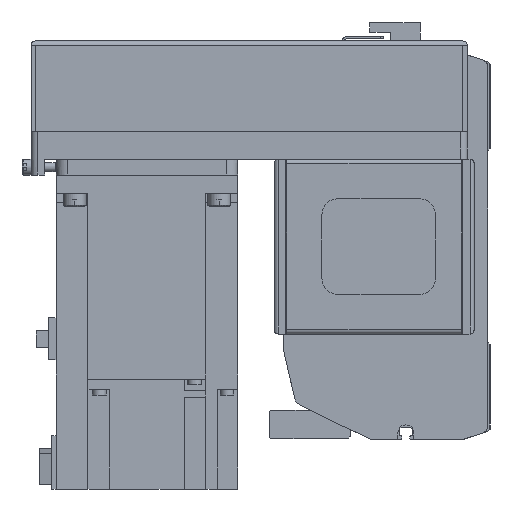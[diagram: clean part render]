
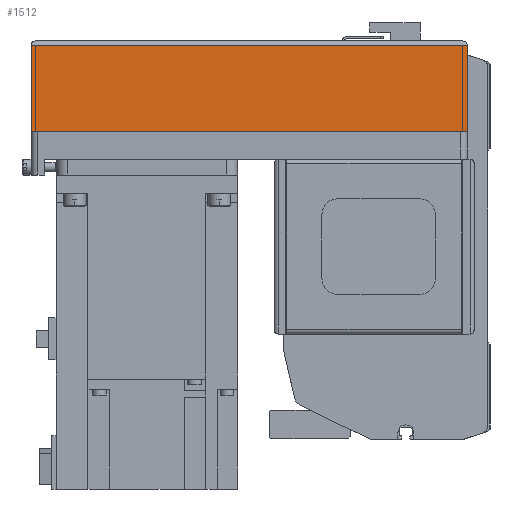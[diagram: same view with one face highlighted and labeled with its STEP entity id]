
A CAD part, left-side view. The second image highlights one B-rep face of the part: STEP entity #1512.
In plain terms, the highlighted planar face has unit normal (-1, 0, 0) as drawn and (0, 1, 0) by its records, which use the part's own axes.
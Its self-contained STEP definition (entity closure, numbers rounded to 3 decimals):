
#1512 = ADVANCED_FACE( '', ( #3743 ), #3744, .T. );
#3743 = FACE_OUTER_BOUND( '', #6865, .T. );
#3744 = PLANE( '', #6866 );
#6865 = EDGE_LOOP( '', ( #11060, #11061, #11062, #11063 ) );
#6866 = AXIS2_PLACEMENT_3D( '', #11064, #11065, #11066 );
#11060 = ORIENTED_EDGE( '', *, *, #18995, .F. );
#11061 = ORIENTED_EDGE( '', *, *, #18633, .F. );
#11062 = ORIENTED_EDGE( '', *, *, #18996, .T. );
#11063 = ORIENTED_EDGE( '', *, *, #18997, .T. );
#11064 = CARTESIAN_POINT( '', ( -192., 40., -50. ) );
#11065 = DIRECTION( '', ( 0., 1., 0. ) );
#11066 = DIRECTION( '', ( 0., 0., 1. ) );
#18633 = EDGE_CURVE( '', #22506, #22509, #22510, .T. );
#18995 = EDGE_CURVE( '', #22509, #23119, #23120, .T. );
#18996 = EDGE_CURVE( '', #22506, #23121, #23122, .T. );
#18997 = EDGE_CURVE( '', #23121, #23119, #23123, .T. );
#22506 = VERTEX_POINT( '', #28039 );
#22509 = VERTEX_POINT( '', #28042 );
#22510 = LINE( '', #28043, #28044 );
#23119 = VERTEX_POINT( '', #28927 );
#23120 = LINE( '', #28928, #28929 );
#23121 = VERTEX_POINT( '', #28930 );
#23122 = LINE( '', #28931, #28932 );
#23123 = LINE( '', #28933, #28934 );
#28039 = CARTESIAN_POINT( '', ( -192., 40., -50. ) );
#28042 = CARTESIAN_POINT( '', ( 0., 40., -50. ) );
#28043 = CARTESIAN_POINT( '', ( -192., 40., -50. ) );
#28044 = VECTOR( '', #34262, 1000. );
#28927 = CARTESIAN_POINT( '', ( 0., 40., -12.1 ) );
#28928 = CARTESIAN_POINT( '', ( 0., 40., -50. ) );
#28929 = VECTOR( '', #34786, 1000. );
#28930 = CARTESIAN_POINT( '', ( -192., 40., -12.1 ) );
#28931 = CARTESIAN_POINT( '', ( -192., 40., -50. ) );
#28932 = VECTOR( '', #34787, 1000. );
#28933 = CARTESIAN_POINT( '', ( -192., 40., -12.1 ) );
#28934 = VECTOR( '', #34788, 1000. );
#34262 = DIRECTION( '', ( 1., 0., 0. ) );
#34786 = DIRECTION( '', ( 0., 0., 1. ) );
#34787 = DIRECTION( '', ( 0., 0., 1. ) );
#34788 = DIRECTION( '', ( 1., 0., 0. ) );
